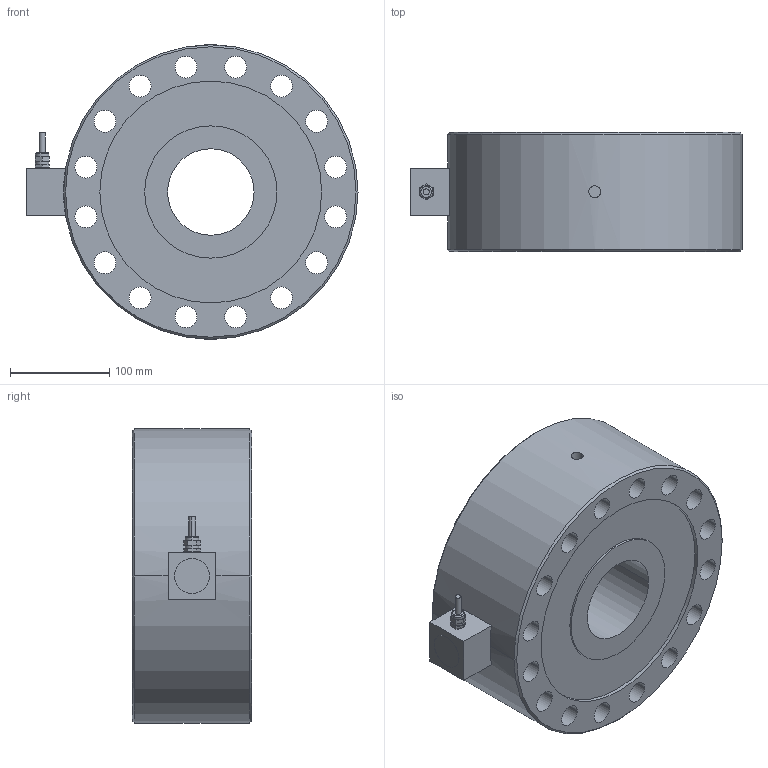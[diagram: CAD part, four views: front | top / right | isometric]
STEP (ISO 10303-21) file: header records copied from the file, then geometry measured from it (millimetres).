
FILE_DESCRIPTION (( 'STEP AP203' ), '1' );
FILE_NAME ('363YS-200t-YZ 3D耀倰.STEP', '2026-06-18T00:40:49', ( '' ), ( '' ), 'SwSTEP 2.0', 'SolidWorks 2024', '' );
FILE_SCHEMA (( 'CONFIG_CONTROL_DESIGN' ));
Length unit declared in the file: millimetre
Products named in the file (1): 363YS-200t-YZ  3D模型
Bounding box: 333.8 x 120 x 296 mm (x, y, z)
Volume: 6664234 mm3; surface area: 404820.2 mm2
Topology: 1 solids, 1 shells, 96 faces, 237 edges, 156 vertices
Faces by surface type: cylinder 58, plane 32, cone 4, torus 2
Entity records: 3200 total; most frequent: CARTESIAN_POINT 656, DIRECTION 551, ORIENTED_EDGE 474, EDGE_CURVE 237, AXIS2_PLACEMENT_3D 221, VERTEX_POINT 156, EDGE_LOOP 143, CIRCLE 124
